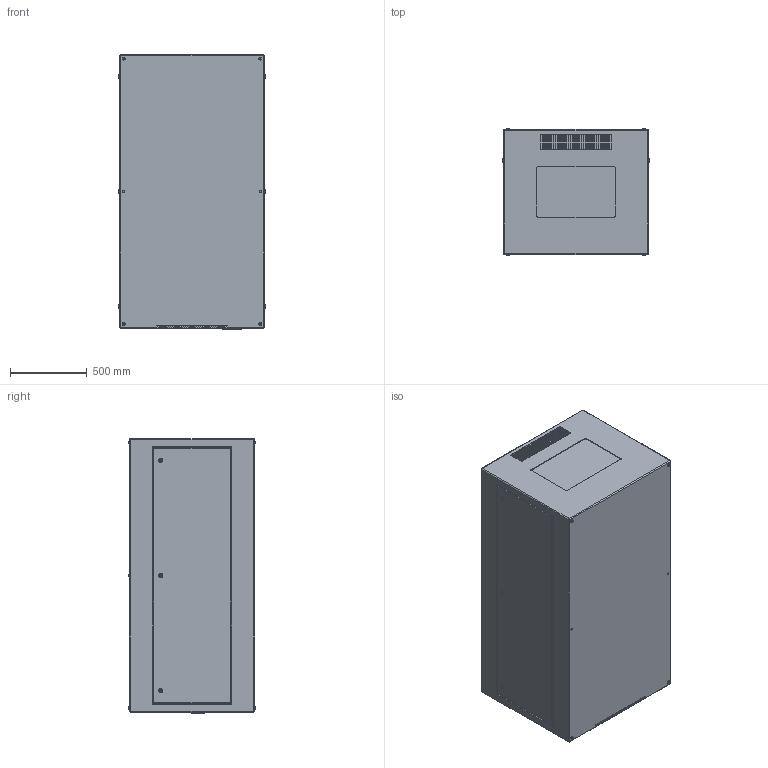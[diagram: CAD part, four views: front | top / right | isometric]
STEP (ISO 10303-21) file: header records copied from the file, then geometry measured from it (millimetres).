
FILE_DESCRIPTION (( 'STEP AP214' ), '1' );
FILE_NAME ('Zen 57.320.L R11 Landscape Hush Enclosure.STEP', '2021-04-23T00:28:18', ( '' ), ( '' ), 'SwSTEP 2.0', 'SolidWorks 2020', '' );
FILE_SCHEMA (( 'AUTOMOTIVE_DESIGN' ));
Length unit declared in the file: inch
Products named in the file (1): Zen 57.320.L R11 Landscape Hush Enclosure
Bounding box: 952.5 x 827.53 x 1785.62 mm (x, y, z)
Volume: 1355649391.6 mm3; surface area: 8376872.4 mm2
Topology: 1 solids, 1 shells, 1125 faces, 2838 edges, 1746 vertices
Faces by surface type: plane 515, cylinder 484, sphere 74, torus 52
Entity records: 36313 total; most frequent: DIRECTION 6040, CARTESIAN_POINT 5684, ORIENTED_EDGE 5528, EDGE_CURVE 2764, AXIS2_PLACEMENT_3D 2166, VERTEX_POINT 1746, LINE 1708, VECTOR 1708
